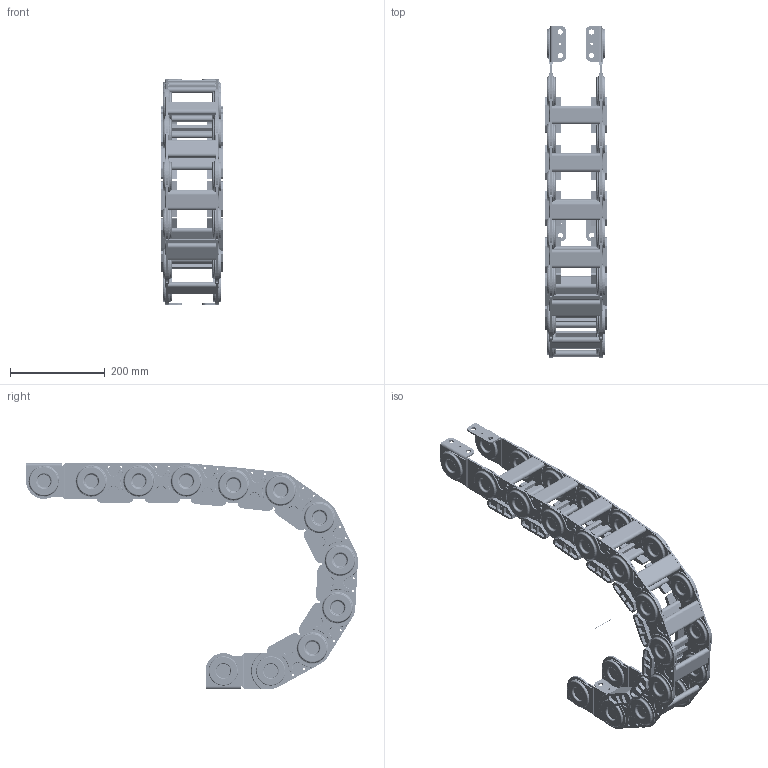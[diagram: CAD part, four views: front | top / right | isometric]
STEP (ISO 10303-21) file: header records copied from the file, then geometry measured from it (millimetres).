
FILE_DESCRIPTION((''),'2;1');
FILE_NAME('C:\Uebbing\TRACE PARTS\SLE\SLE 328\SLE 328 vereinfacht.stp','2013-05-27T08:58:42',('Uebbing'),(''),'Autodesk Inventor 10','Autodesk Inventor 10','');
FILE_SCHEMA(('AUTOMOTIVE_DESIGN { 1 0 10303 214 1 1 1 1 }'));
Length unit declared in the file: millimetre
Products named in the file (5): SLE 328 vereinfacht; Achse; SLE 328 Glied vereinfacht; SLE 320 Anschluss N einfach vereinfacht; SLE 320 Anschluss N doppelt vereinfacht
Assembly tree (12 placements, depth 2):
  SLE 328 vereinfacht
    Achse
    SLE 328 Glied vereinfacht  x9
    SLE 320 Anschluss N einfach vereinfacht
    SLE 320 Anschluss N doppelt vereinfacht
Bounding box: 128.6 x 699.11 x 475 mm (x, y, z)
Volume: 2650331.1 mm3; surface area: 1265642.9 mm2
Topology: 16 solids, 70 shells, 3403 faces, 8524 edges, 5479 vertices
Faces by surface type: plane 1232, cylinder 1053, bspline 676, torus 424, cone 18
Full cylindrical faces by diameter (mm): 1 x1, 4.2 x36, 5.1 x18, 5.2 x4, 5.3 x72, 11 x8, 20.05 x2, 20.06 x4, 20.1 x18, 20.2 x4, 30 x8, 62 x8
Entity records: 19989 total; most frequent: CARTESIAN_POINT 5164, DIRECTION 3132, ORIENTED_EDGE 2840, EDGE_CURVE 1420, AXIS2_PLACEMENT_3D 1180, VERTEX_POINT 976, EDGE_LOOP 852, VECTOR 772
